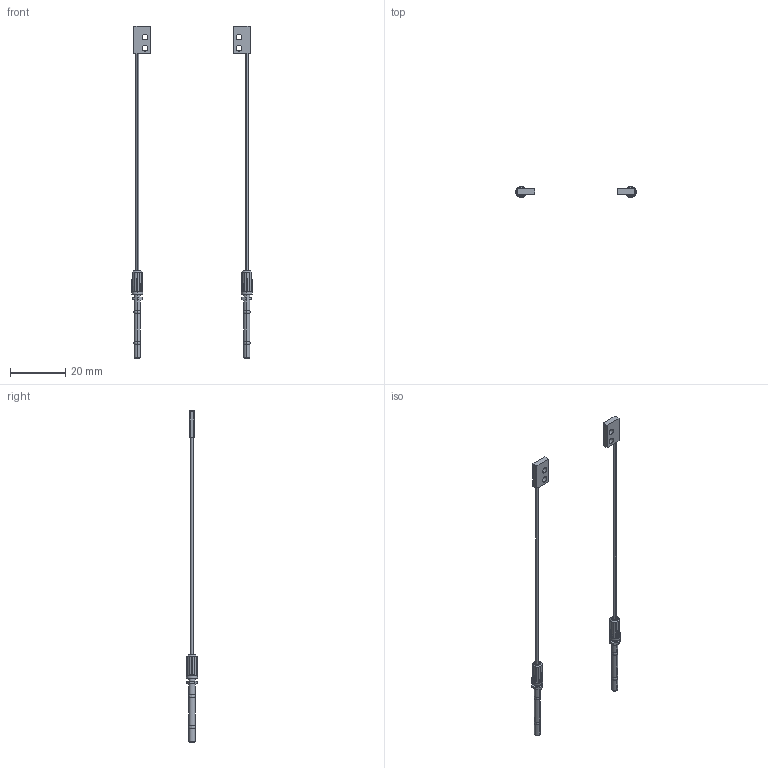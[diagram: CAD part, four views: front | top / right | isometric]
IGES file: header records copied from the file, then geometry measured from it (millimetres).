
Start section: SolidWorks IGES file using analytic representation for surfaces
Bounding box: 43.6 x 4 x 120 mm (x, y, z)
Surface area: 1888.1 mm2 (no closed solid volume)
Topology: 0 solids, 0 shells, 202 faces, 1882 edges, 1880 vertices
Faces by surface type: bspline 130, revolution 72
